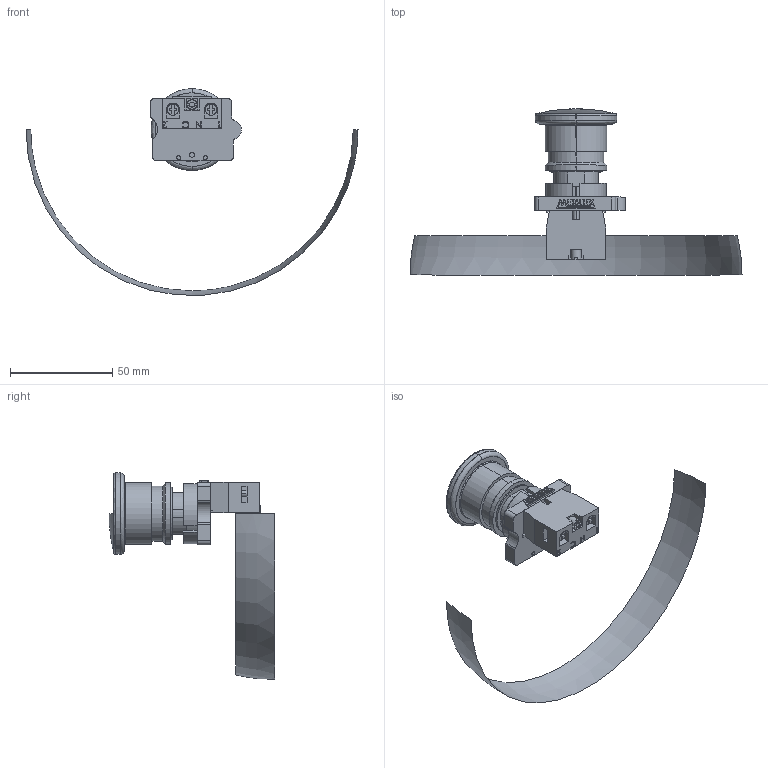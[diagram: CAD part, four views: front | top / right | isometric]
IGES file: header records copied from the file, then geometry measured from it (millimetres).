
Start section: SolidWorks IGES file using analytic representation for surfaces
Global section: file name: D:\X - Arquivos\PROEX\Empresas\P11 - METALTEX\01 - Produtos\IGES\Primeira remessa\P20AMR-R-1B.IGS; native system: SolidWorks 2012; preprocessor: SolidWorks 2012; author: Usuario; date: 180117.114701; units: millimetre
Bounding box: 162.5 x 81.25 x 101.06 mm (x, y, z)
Surface area: 18025.9 mm2 (no closed solid volume)
Topology: 0 solids, 0 shells, 354 faces, 3728 edges, 3727 vertices
Faces by surface type: bspline 276, revolution 78
